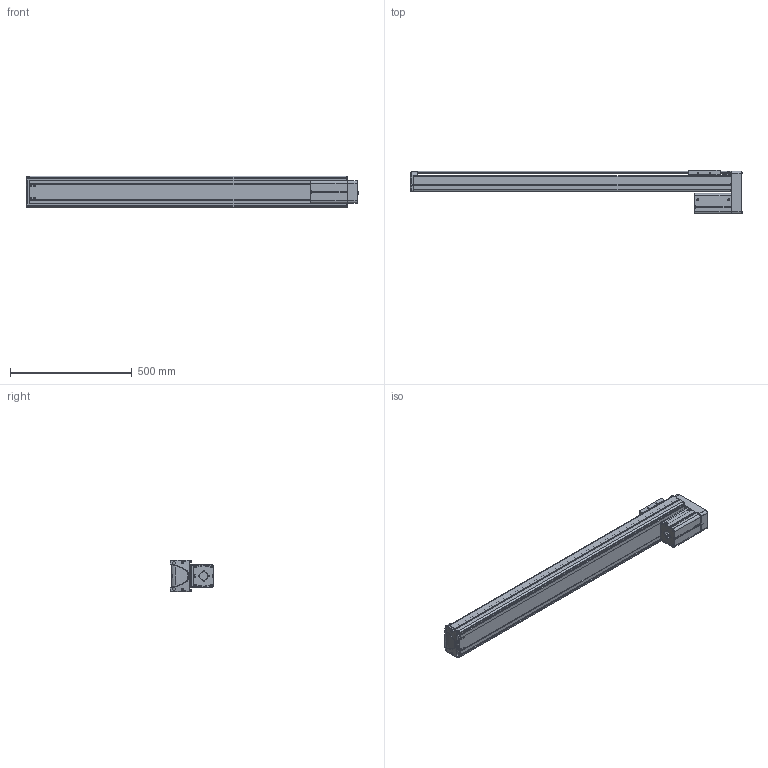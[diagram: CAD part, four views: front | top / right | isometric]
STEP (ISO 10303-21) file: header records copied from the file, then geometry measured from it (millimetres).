
FILE_DESCRIPTION((''),'2;1');
FILE_NAME('BE30E-UU-M_N-B0_IGS_PRT','2017-06-17T',(' '),(''),'PRO/ENGINEER BY PARAMETRIC TECHNOLOGY CORPORATION, 2015030','PRO/ENGINEER BY PARAMETRIC TECHNOLOGY CORPORATION, 2015030','');
FILE_SCHEMA(('CONFIG_CONTROL_DESIGN'));
Length unit declared in the file: millimetre
Products named in the file (1): BE30E-UU-M_N-B0_IGS_PRT
Bounding box: 1361.9 x 180 x 130 mm (x, y, z)
Volume: 4389488.2 mm3; surface area: 1840829 mm2
Topology: 2 solids, 132 shells, 2086 faces, 5647 edges, 3670 vertices
Faces by surface type: plane 1001, cylinder 891, cone 105, torus 37, bspline 28, sphere 24
Entity records: 67814 total; most frequent: CARTESIAN_POINT 14413, DIRECTION 11280, ORIENTED_EDGE 10715, EDGE_CURVE 5609, AXIS2_PLACEMENT_3D 3991, VERTEX_POINT 3670, VECTOR 3298, LINE 3298
